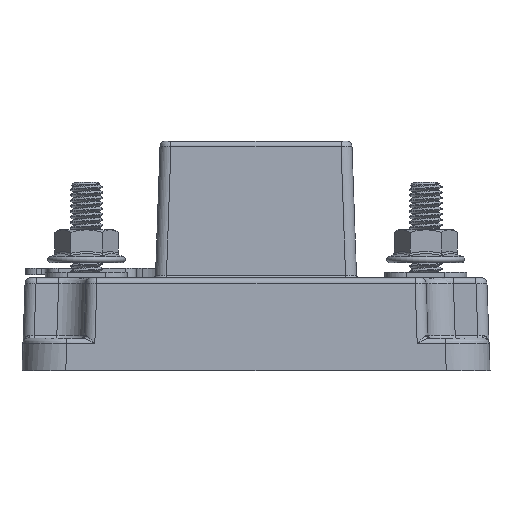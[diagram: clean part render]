
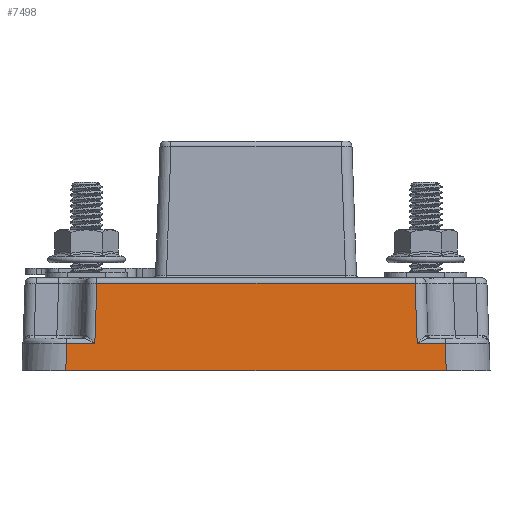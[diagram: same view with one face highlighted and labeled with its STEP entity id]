
A CAD part, front view. The second image highlights one B-rep face of the part: STEP entity #7498.
In plain terms, the highlighted planar face has unit normal (0, -0.999, 0.035).
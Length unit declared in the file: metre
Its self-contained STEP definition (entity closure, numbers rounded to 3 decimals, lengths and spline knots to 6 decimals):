
#790=LINE('',#12063,#1347);
#791=LINE('',#12065,#1348);
#826=LINE('',#12287,#1383);
#828=LINE('',#12293,#1385);
#835=LINE('',#12334,#1392);
#939=LINE('',#12768,#1496);
#940=LINE('',#12772,#1497);
#941=LINE('',#12774,#1498);
#1347=VECTOR('',#9202,1.);
#1348=VECTOR('',#9205,1.);
#1383=VECTOR('',#9348,1.);
#1385=VECTOR('',#9354,1.);
#1392=VECTOR('',#9383,1.);
#1496=VECTOR('',#9741,1.);
#1497=VECTOR('',#9746,1.);
#1498=VECTOR('',#9747,1.);
#1832=PLANE('',#8197);
#3036=ORIENTED_EDGE('',*,*,#4852,.T.);
#3037=ORIENTED_EDGE('',*,*,#4588,.T.);
#3038=ORIENTED_EDGE('',*,*,#4658,.T.);
#3039=ORIENTED_EDGE('',*,*,#4675,.T.);
#3040=ORIENTED_EDGE('',*,*,#4661,.T.);
#3041=ORIENTED_EDGE('',*,*,#4587,.T.);
#3042=ORIENTED_EDGE('',*,*,#4850,.T.);
#3043=ORIENTED_EDGE('',*,*,#4853,.T.);
#4587=EDGE_CURVE('',#5508,#5611,#790,.T.);
#4588=EDGE_CURVE('',#5612,#5505,#791,.T.);
#4658=EDGE_CURVE('',#5505,#5656,#826,.F.);
#4661=EDGE_CURVE('',#5658,#5508,#828,.F.);
#4675=EDGE_CURVE('',#5656,#5658,#835,.F.);
#4850=EDGE_CURVE('',#5611,#5771,#939,.F.);
#4852=EDGE_CURVE('',#5772,#5612,#940,.F.);
#4853=EDGE_CURVE('',#5771,#5772,#941,.F.);
#5505=VERTEX_POINT('',#11587);
#5508=VERTEX_POINT('',#11619);
#5611=VERTEX_POINT('',#12060);
#5612=VERTEX_POINT('',#12066);
#5656=VERTEX_POINT('',#12288);
#5658=VERTEX_POINT('',#12294);
#5771=VERTEX_POINT('',#12769);
#5772=VERTEX_POINT('',#12773);
#6451=EDGE_LOOP('',(#3036,#3037,#3038,#3039,#3040,#3041,#3042,#3043));
#6944=FACE_BOUND('',#6451,.T.);
#7498=ADVANCED_FACE('',(#6944),#1832,.T.);
#8197=AXIS2_PLACEMENT_3D('',#12771,#9744,#9745);
#9202=DIRECTION('',(-1.,0.,0.));
#9205=DIRECTION('',(-1.,0.,0.));
#9348=DIRECTION('',(0.035,-0.035,-0.999));
#9354=DIRECTION('',(0.035,0.035,0.999));
#9383=DIRECTION('',(1.,0.,0.));
#9741=DIRECTION('',(0.035,0.035,0.999));
#9744=DIRECTION('',(0.,-0.999,0.035));
#9745=DIRECTION('',(0.,-0.035,-0.999));
#9746=DIRECTION('',(0.035,-0.035,-0.999));
#9747=DIRECTION('',(-1.,0.,0.));
#11587=CARTESIAN_POINT('',(0.029446,-0.037824,-0.005965));
#11619=CARTESIAN_POINT('',(-0.029446,-0.037824,-0.005965));
#12060=CARTESIAN_POINT('',(-0.034579,-0.037824,-0.005965));
#12063=CARTESIAN_POINT('',(-0.034545,-0.037824,-0.005965));
#12065=CARTESIAN_POINT('',(0.029412,-0.037824,-0.005965));
#12066=CARTESIAN_POINT('',(0.034579,-0.037824,-0.005965));
#12287=CARTESIAN_POINT('',(0.029585,-0.037964,-0.009968));
#12288=CARTESIAN_POINT('',(0.029061,-0.03744,0.005035));
#12293=CARTESIAN_POINT('',(-0.029414,-0.037793,-0.00507));
#12294=CARTESIAN_POINT('',(-0.029061,-0.03744,0.005035));
#12334=CARTESIAN_POINT('',(-0.029028,-0.03744,0.005035));
#12768=CARTESIAN_POINT('',(-0.034713,-0.037958,-0.009789));
#12769=CARTESIAN_POINT('',(-0.034755,-0.038,-0.011));
#12771=CARTESIAN_POINT('',(0.,-0.038,-0.011));
#12772=CARTESIAN_POINT('',(0.034555,-0.0378,-0.005279));
#12773=CARTESIAN_POINT('',(0.034755,-0.038,-0.011));
#12774=CARTESIAN_POINT('',(0.,-0.038,-0.011));
